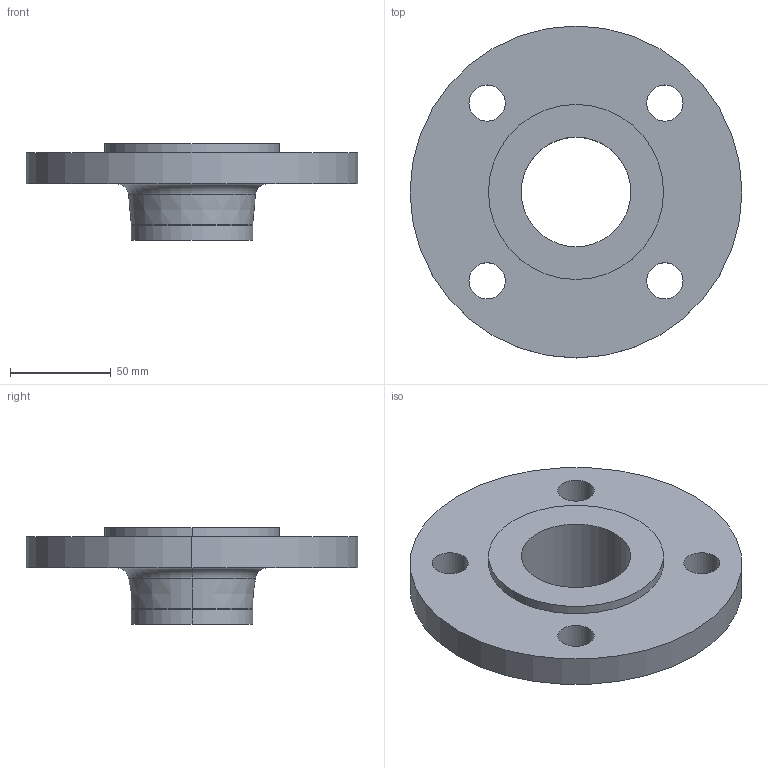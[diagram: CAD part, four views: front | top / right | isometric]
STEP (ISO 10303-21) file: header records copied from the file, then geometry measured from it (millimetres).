
FILE_DESCRIPTION (( 'STEP AP214' ), '1' );
FILE_NAME ('PN40 DN50 Type 11 - Type E Face.STEP', '2018-12-30T04:36:15', ( '' ), ( '' ), 'SwSTEP 2.0', 'SolidWorks 2019', '' );
FILE_SCHEMA (( 'AUTOMOTIVE_DESIGN' ));
Length unit declared in the file: millimetre
Products named in the file (1): PN40 DN50 Type 11 - Type E Face
Bounding box: 165 x 165 x 48 mm (x, y, z)
Volume: 315367.3 mm3; surface area: 61724 mm2
Topology: 1 solids, 1 shells, 26 faces, 60 edges, 38 vertices
Faces by surface type: cylinder 16, torus 4, plane 4, cone 2
Entity records: 812 total; most frequent: DIRECTION 156, CARTESIAN_POINT 125, ORIENTED_EDGE 120, AXIS2_PLACEMENT_3D 69, EDGE_CURVE 60, CIRCLE 42, VERTEX_POINT 38, EDGE_LOOP 38
